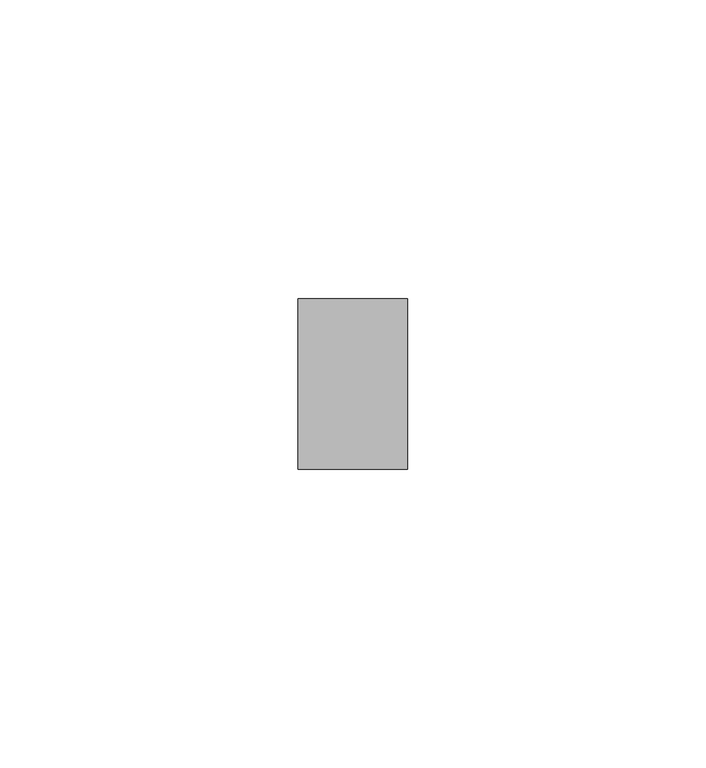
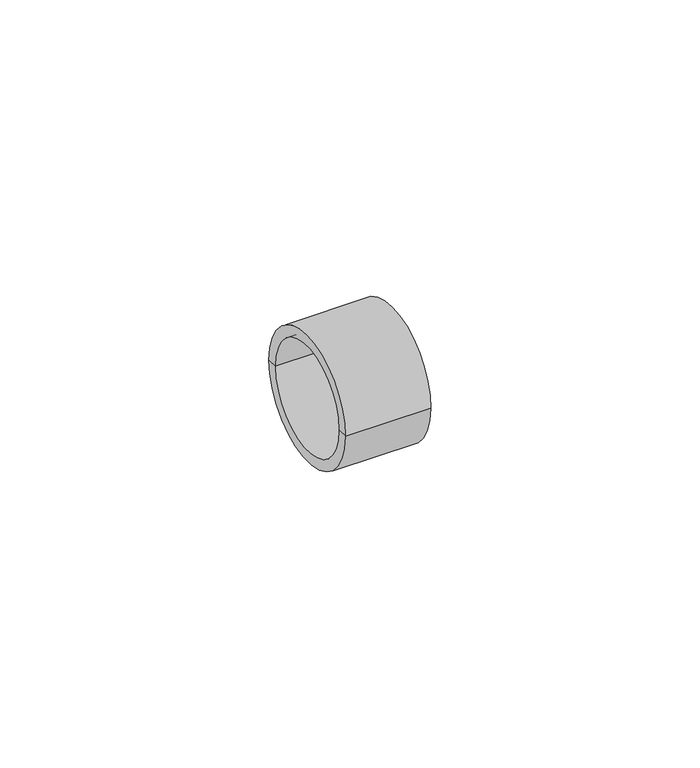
"""IFC4 building model written with IfcOpenShell, lengths in millimetres: cable carrier fitting geometry."""

from ifc_helpers import new_model, si_unit, frame, origin, place, context, project, spatial, polyline, circle_curve, source, transform, mapped, element, save
from ifc_brep_helpers import plane_surface, cylinder_surface, revolved_surface, advanced_brep


def cable_carrier_fitting_4c42fae0(model_context):
    return source(origin(), model_context, "Body", "AdvancedBrep", [
        advanced_brep(
        [(-17.01, -14.32, 0.0), (-17.01, 14.32, 0.0), (1.25, 14.32, 0.0), (1.25, -14.32, 0.0), (-17.01, -11.91, 0.0), (-17.01, 11.91, 0.0), (1.25, 11.91, 0.0), (1.25, -11.91, 0.0)],
        [
            (0, 1, circle_curve(frame((-17.01, 0.0, 0.0), z_axis=(1.0, 0.0, 0.0), x_axis=(0.0, 1.0, 0.0)), 14.32)),
            (1, 2),
            (2, 3, circle_curve(frame((1.25, 0.0, 0.0), z_axis=(-1.0, 0.0, 0.0), x_axis=(0.0, 1.0, 0.0)), 14.32)),
            (3, 0),
            (1, 0, circle_curve(frame((-17.01, 0.0, 0.0), z_axis=(1.0, 0.0, 0.0), x_axis=(0.0, 1.0, 0.0)), 14.32)),
            (3, 2, circle_curve(frame((1.25, 0.0, 0.0), z_axis=(-1.0, 0.0, 0.0), x_axis=(0.0, 1.0, 0.0)), 14.32)),
            (4, 5, circle_curve(frame((-17.01, 0.0, 0.0), z_axis=(1.0, 0.0, 0.0), x_axis=(0.0, 1.0, 0.0)), 11.91)),
            (5, 1),
            (0, 4),
            (5, 4, circle_curve(frame((-17.01, 0.0, 0.0), z_axis=(1.0, 0.0, 0.0), x_axis=(0.0, 1.0, 0.0)), 11.91)),
            (2, 6),
            (6, 7, circle_curve(frame((1.25, 0.0, 0.0), z_axis=(-1.0, 0.0, 0.0), x_axis=(0.0, 1.0, 0.0)), 11.91)),
            (7, 3),
            (7, 6, circle_curve(frame((1.25, 0.0, 0.0), z_axis=(-1.0, 0.0, 0.0), x_axis=(0.0, 1.0, 0.0)), 11.91)),
            (6, 5),
            (4, 7),
        ],
        [
            cylinder_surface(frame((1983.77, 0.0, 0.0), z_axis=(-1.0, 0.0, 0.0), x_axis=(0.0, 1.0, 0.0)), 14.32),
            plane_surface(frame((-17.01, 0.0, 0.0), z_axis=(-1.0, 0.0, 0.0), x_axis=(0.0, 1.0, 0.0))),
            plane_surface(frame((1.25, 0.0, 0.0), z_axis=(1.0, 0.0, 0.0), x_axis=(0.0, 1.0, 0.0))),
            revolved_surface(polyline([(-17.00999999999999, 11.91, 0.0), (1.25, 11.91, 0.0)]), (1983.77, 0.0, 0.0), (-1.0, 0.0, 0.0)),
        ],
        [
            (0, [[1, 2, 3, 4]]),
            (0, [[5, -4, 6, -2]]),
            (1, [[7, 8, -1, 9]]),
            (1, [[10, -9, -5, -8]]),
            (2, [[-3, 11, 12, 13]]),
            (2, [[-6, -13, 14, -11]]),
            (3, [[-12, 15, -7, 16]]),
            (3, [[-14, -16, -10, -15]]),
        ],
    ),
        advanced_brep(
        [(-1.25, -11.91, 0.0), (-1.25, 11.91, 0.0), (1.25, 11.91, 0.0), (1.25, -11.91, 0.0), (-1.25, 0.0, 0.0), (1.25, 0.0, 0.0)],
        [
            (0, 1, circle_curve(frame((-1.25, 0.0, 0.0), z_axis=(1.0, 0.0, 0.0), x_axis=(0.0, 1.0, 0.0)), 11.91)),
            (1, 2),
            (2, 3, circle_curve(frame((1.25, 0.0, 0.0), z_axis=(-1.0, 0.0, 0.0), x_axis=(0.0, 1.0, 0.0)), 11.91)),
            (3, 0),
            (1, 0, circle_curve(frame((-1.25, 0.0, 0.0), z_axis=(1.0, 0.0, 0.0), x_axis=(0.0, 1.0, 0.0)), 11.91)),
            (3, 2, circle_curve(frame((1.25, 0.0, 0.0), z_axis=(-1.0, 0.0, 0.0), x_axis=(0.0, 1.0, 0.0)), 11.91)),
            (4, 1),
            (0, 4),
            (2, 5),
            (5, 3),
        ],
        [
            cylinder_surface(frame((1998.2590145, 0.0, 0.0), z_axis=(-1.0, 0.0, 0.0), x_axis=(0.0, 1.0, 0.0)), 11.91),
            plane_surface(frame((-1.25, 0.0, 0.0), z_axis=(-1.0, 0.0, 0.0), x_axis=(0.0, 1.0, 0.0))),
            plane_surface(frame((1.25, 0.0, 0.0), z_axis=(1.0, 0.0, 0.0), x_axis=(0.0, 1.0, 0.0))),
        ],
        [
            (0, [[1, 2, 3, 4]]),
            (0, [[5, -4, 6, -2]]),
            (1, [[7, -1, 8]]),
            (1, [[-8, -5, -7]]),
            (2, [[-3, 9, 10]]),
            (2, [[-6, -10, -9]]),
        ],
    ),
    ])


if __name__ == "__main__":
    model = new_model("IFC4")
    model_context = context("Model", 3, world=origin())
    ifc_project = project(units=[si_unit("LENGTHUNIT", "METRE", prefix="MILLI")], contexts=[model_context])
    site = spatial("IfcSite", under=ifc_project)
    building = spatial("IfcBuilding", under=site)
    placement = place(None, origin())
    cable_carrier_fitting_shape = cable_carrier_fitting_4c42fae0(model_context)
    element("IfcCableCarrierFitting", 1, ObjectType="AmancoWavin_ConduitFittings_ConectorMacho_U : Naranja de ½ y ¾\"", at=placement, inside=building, context=model_context, shape_type="MappedRepresentation", body=[
        mapped(cable_carrier_fitting_shape, transform((0.0, 0.0, 0.0), x_axis=(1.0, 0.0, 0.0), y_axis=(0.0, 1.0, 0.0), z_axis=(0.0, 0.0, 1.0))),
    ])
    save(model, "model.ifc")
